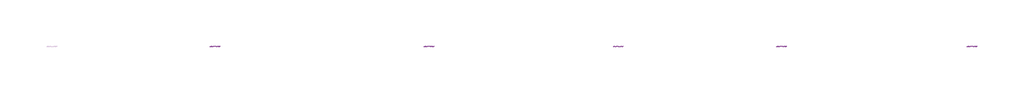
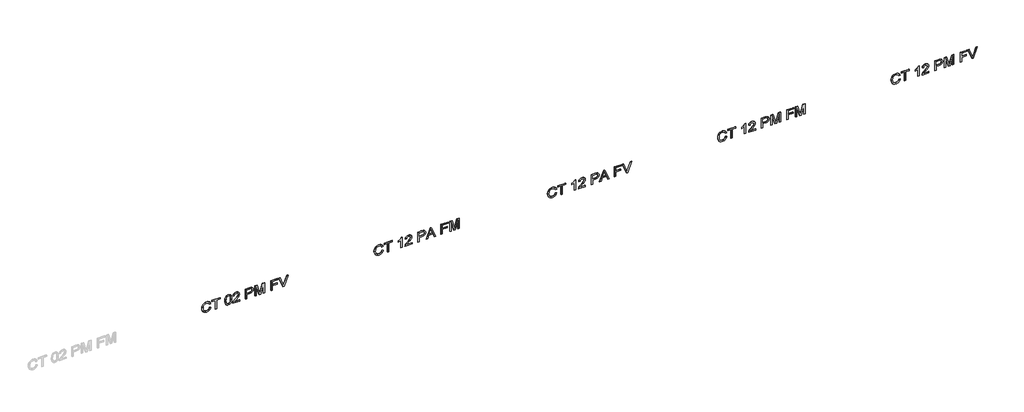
# One storey, part 2 of 2: 5 proxies.
"""IFC4 building model written with IfcOpenShell, lengths in millimetres."""

from ifc_helpers import new_model, si_unit, frame, origin, place, context, project, spatial, polyline, outline, extrude, element, save

model = new_model("IFC4")

# Units and contexts
model_context = context("Model", 3, world=origin())
ifc_project = project(units=[si_unit("LENGTHUNIT", "METRE", prefix="MILLI")], contexts=[model_context])

# Site, building, storey
site = spatial("IfcSite", under=ifc_project)
building = spatial("IfcBuilding", under=site)
storey = spatial("IfcBuildingStorey", under=building, Name="02 - Marelli - Planta Baixa - Cabine 02 Pessoas", Elevation=-12000.0)

# Proxies
placement = place(None, origin())
element("IfcBuildingElementProxy", 1, Name="300mm Arial", ObjectType="300mm Arial", at=placement, inside=storey, context=model_context, shape_type="SweptSolid", body=[
    extrude(outline(polyline([(-6192.872763, 12857.8980347), (-6225.136014, 12845.7119436), (-6248.3493679, 12825.9290893), (-6262.3656719, 12799.7266942), (-6267.0377732, 12768.2819806), (-6263.6072736, 12741.3070333), (-6253.3157748, 12716.3002547), (-6236.0897004, 12695.4413456), (-6211.855474, 12680.9100068), (-6181.7627268, 12672.3843415), (-6146.96109, 12669.5424531), (-6118.5422059, 12671.9428831), (-6090.9694503, 12679.1441732), (-6066.5788741, 12692.2683634), (-6047.7065277, 12712.4374938), (-6035.6216042, 12739.0169679), (-6031.5932963, 12771.3721894), (-6035.226131, 12799.4415856), (-6046.1246351, 12822.2870575), (-6064.9693903, 12840.1293343), (-6092.4409783, 12853.1891451), (-6083.4646576, 12890.8602614), (-6045.6463885, 12874.2227982), (-6030.3241034, 12862.4206839), (-6017.3930513, 12848.2963146), (-6007.1245451, 12832.1164046), (-5999.7898978, 12814.1476684), (-5993.92218, 12772.8437174), (-5998.4563256, 12734.9886601), (-6012.0587624, 12700.4445407), (-6034.3983965, 12671.3174838), (-6065.1441343, 12649.7136136), (-6103.0911621, 12636.331906), (-6147.0346664, 12631.8713368), (-6188.6973024, 12635.8168712), (-6227.6008233, 12647.6534744), (-6260.6918088, 12667.0408556), (-6284.9168382, 12693.6387238), (-6299.7608767, 12728.339193), (-6304.7088895, 12772.034377), (-6303.0741139, 12794.4567846), (-6298.1697871, 12815.0765704), (-6289.995909, 12833.8937345), (-6278.5524797, 12850.9082767), (-6263.995849, 12865.7845049), (-6246.4823668, 12878.1867267), (-6226.012033, 12888.114942), (-6202.5848477, 12895.569151), (-6192.872763, 12857.8980347)])), frame((0.0, 8778.3159498, 0.0), z_axis=(0.0, 1.0, 0.0), x_axis=(0.0, 0.0, 1.0)), (0.0, 0.0, 1.0), 10.0),
    extrude(outline(polyline([(-6300.0, 13022.7091685), (-6300.0, 13060.3802848), (-6036.3021859, 13060.3802848), (-6036.3021859, 13159.2669651), (-5998.6310696, 13159.2669651), (-5998.6310696, 12923.8224882), (-6036.3021859, 12923.8224882), (-6036.3021859, 13022.7091685), (-6300.0, 13022.7091685)])), frame((0.0, 8778.3159498, 0.0), z_axis=(0.0, 1.0, 0.0), x_axis=(0.0, 0.0, 1.0)), (0.0, 0.0, 1.0), 10.0),
    extrude(outline(polyline([(-6151.7435559, 13305.2425408), (-6191.1851044, 13307.118739), (-6225.0440435, 13312.7473335), (-6253.3203733, 13322.1283244), (-6276.0140939, 13335.2617116), (-6288.568067, 13348.9469218), (-6297.5351906, 13364.9865768), (-6302.9154648, 13383.3806766), (-6304.7088895, 13404.1292211), (-6300.5794141, 13434.5806532), (-6288.190988, 13459.2747322), (-6267.4056552, 13478.3770048), (-6238.0854602, 13492.0530179), (-6199.7061711, 13500.2751805), (-6151.7435559, 13503.0159014), (-6111.7823742, 13501.3052501), (-6080.9262719, 13496.1732963), (-6056.6276661, 13488.3374098), (-6036.3389741, 13478.5149605), (-6020.1981515, 13465.510332), (-6008.3431542, 13448.1279077), (-6001.0590907, 13427.342575), (-5998.6310696, 13404.1292211), (-6002.7329538, 13373.8433358), (-6015.0386065, 13349.2044392), (-6035.7411658, 13330.0745755), (-6065.0337697, 13316.3157888), (-6103.5050293, 13308.0108528), (-6151.7435559, 13305.2425408)]), holes=[polyline([(-6151.6699795, 13342.9136571), (-6093.1767423, 13347.4753938), (-6072.097104, 13353.1775648), (-6056.4621192, 13361.1606041), (-6041.3421692, 13380.1065268), (-6036.3021859, 13403.6877627), (-6042.0227509, 13428.5933738), (-6059.184446, 13448.2750605), (-6073.5456393, 13455.743065), (-6093.7469594, 13461.0773539), (-6151.6699795, 13465.3447851), (-6210.8346014, 13460.9302012), (-6231.0980016, 13455.4119712), (-6245.1487945, 13447.6864493), (-6261.5655286, 13427.9679744), (-6267.0377732, 13404.1292211), (-6261.5839227, 13380.2904678), (-6245.2223709, 13360.5719929), (-6231.1945706, 13352.846471), (-6210.9265719, 13347.328241), (-6151.6699795, 13342.9136571)])]), frame((0.0, 8778.3159498, 0.0), z_axis=(0.0, 1.0, 0.0), x_axis=(0.0, 0.0, 1.0)), (0.0, 0.0, 1.0), 10.0),
    extrude(outline(polyline([(-6262.3288837, 13729.0425992), (-6262.3288837, 13581.0804608), (-6243.1622317, 13598.076609), (-6206.9258552, 13641.413108), (-6177.9091629, 13674.1086203), (-6155.3120113, 13695.3813967), (-6136.3844826, 13708.7263161), (-6118.376659, 13717.6382574), (-6100.672338, 13722.6598466), (-6082.6553172, 13724.3337097), (-6065.5028192, 13722.7817075), (-6049.8034551, 13718.125701), (-6035.5572248, 13710.3656902), (-6022.7641284, 13699.501675), (-6012.2059152, 13685.9751139), (-6004.6643343, 13670.2274653), (-6000.1393857, 13652.2587291), (-5998.6310696, 13632.0689053), (-6004.057329, 13594.1862569), (-6010.8401533, 13578.4524038), (-6020.3361073, 13564.8568648), (-6032.4164323, 13553.6571573), (-6046.9523696, 13545.1107987), (-6083.3910812, 13535.9781282), (-6088.0999708, 13573.6492445), (-6066.4501154, 13577.7235376), (-6050.0609725, 13589.5049585), (-6039.7418825, 13607.7611025), (-6036.3021859, 13631.2595649), (-6039.824656, 13653.6359873), (-6050.3920663, 13671.3219142), (-6066.0730363, 13682.8274236), (-6084.9361856, 13686.6625934), (-6105.9790357, 13682.5974973), (-6127.6104971, 13670.4022092), (-6154.2635476, 13646.0116329), (-6190.3711654, 13605.3606725), (-6213.4281695, 13577.8614933), (-6234.0387583, 13558.1982007), (-6253.7296421, 13544.604961), (-6274.0275311, 13535.3159406), (-6300.0, 13531.2692386), (-6300.0, 13729.0425992), (-6262.3288837, 13729.0425992)])), frame((0.0, 8778.3159498, 0.0), z_axis=(0.0, 1.0, 0.0), x_axis=(0.0, 0.0, 1.0)), (0.0, 0.0, 1.0), 10.0),
    extrude(outline(polyline([(-6300.0, 13898.5626226), (-6300.0, 13936.2337389), (-6177.568872, 13936.2337389), (-6177.568872, 14012.8267703), (-6175.904206, 14042.0251044), (-6170.9102079, 14066.3444036), (-6162.5868778, 14085.7846677), (-6150.9342156, 14100.345897), (-6136.8765248, 14110.9523947), (-6121.338109, 14118.5284646), (-6104.3189682, 14123.0741065), (-6085.8191024, 14124.5893204), (-6064.362385, 14122.3452403), (-6044.7266835, 14115.6129998), (-6028.0800233, 14105.1927423), (-6015.5904295, 14091.8846111), (-6006.8624292, 14075.3575124), (-6001.5005491, 14055.2803526), (-5998.6310696, 14010.2515963), (-5998.6310696, 13898.5626226), (-6300.0, 13898.5626226)]), holes=[polyline([(-6139.8977557, 13936.2337389), (-6036.3021859, 13936.2337389), (-6036.3021859, 14014.1511455), (-6038.8773598, 14051.8222618), (-6045.2049301, 14066.050098), (-6055.9470844, 14077.2429077), (-6070.2209058, 14084.49938), (-6087.1434776, 14086.9182041), (-6109.4187324, 14082.8163199), (-6126.0653927, 14070.5106672), (-6136.4396649, 14048.4377474), (-6139.8977557, 14015.0340623), (-6139.8977557, 13936.2337389)])]), frame((0.0, 8778.3159498, 0.0), z_axis=(0.0, 1.0, 0.0), x_axis=(0.0, 0.0, 1.0)), (0.0, 0.0, 1.0), 10.0),
    extrude(outline(polyline([(-6300.0, 14176.3871054), (-6300.0, 14214.0582217), (-6036.3021859, 14214.0582217), (-6300.0, 14289.7683363), (-6300.0, 14340.8303572), (-6036.3021859, 14416.5404718), (-6300.0, 14416.5404718), (-6300.0, 14454.2115881), (-5998.6310696, 14454.2115881), (-5998.6310696, 14389.3907806), (-6207.3673136, 14328.7638278), (-6255.4127022, 14315.2993467), (-6211.0461336, 14302.8649353), (-5998.6310696, 14241.2079129), (-5998.6310696, 14176.3871054), (-6300.0, 14176.3871054)])), frame((0.0, 8778.3159498, 0.0), z_axis=(0.0, 1.0, 0.0), x_axis=(0.0, 0.0, 1.0)), (0.0, 0.0, 1.0), 10.0),
    extrude(outline(polyline([(-6300.0, 14637.8582801), (-6300.0, 14675.5293964), (-6163.4422034, 14675.5293964), (-6163.4422034, 14816.7960826), (-6125.7710871, 14816.7960826), (-6125.7710871, 14675.5293964), (-6036.3021859, 14675.5293964), (-6036.3021859, 14840.3405303), (-5998.6310696, 14840.3405303), (-5998.6310696, 14637.8582801), (-6300.0, 14637.8582801)])), frame((0.0, 8778.3159498, 0.0), z_axis=(0.0, 1.0, 0.0), x_axis=(0.0, 0.0, 1.0)), (0.0, 0.0, 1.0), 10.0),
    extrude(outline(polyline([(-6300.0, 14981.165758), (-6300.0, 15020.0876731), (-5998.6310696, 15134.940432), (-5998.6310696, 15094.6205653), (-6215.7550231, 15014.1279848), (-6264.6833285, 14998.0883298), (-6215.7550231, 14981.8279456), (-5998.6310696, 14901.5560943), (-5998.6310696, 14861.2362276), (-6300.0, 14981.165758)])), frame((0.0, 8778.3159498, 0.0), z_axis=(0.0, 1.0, 0.0), x_axis=(0.0, 0.0, 1.0)), (0.0, 0.0, 1.0), 10.0),
])
element("IfcBuildingElementProxy", 2, Name="300mm Arial", ObjectType="300mm Arial", at=placement, inside=storey, context=model_context, shape_type="SweptSolid", body=[
    extrude(outline(polyline([(-6192.872763, 17857.8980347), (-6225.136014, 17845.7119436), (-6248.3493679, 17825.9290893), (-6262.3656719, 17799.7266942), (-6267.0377732, 17768.2819806), (-6263.6072736, 17741.3070333), (-6253.3157748, 17716.3002547), (-6236.0897004, 17695.4413456), (-6211.855474, 17680.9100068), (-6181.7627268, 17672.3843415), (-6146.96109, 17669.5424531), (-6118.5422059, 17671.9428831), (-6090.9694503, 17679.1441732), (-6066.5788741, 17692.2683634), (-6047.7065277, 17712.4374938), (-6035.6216042, 17739.0169679), (-6031.5932963, 17771.3721894), (-6035.226131, 17799.4415856), (-6046.1246351, 17822.2870575), (-6064.9693903, 17840.1293343), (-6092.4409783, 17853.1891451), (-6083.4646576, 17890.8602614), (-6045.6463885, 17874.2227982), (-6030.3241034, 17862.4206839), (-6017.3930513, 17848.2963146), (-6007.1245451, 17832.1164046), (-5999.7898978, 17814.1476684), (-5993.92218, 17772.8437174), (-5998.4563256, 17734.9886601), (-6012.0587624, 17700.4445407), (-6034.3983965, 17671.3174838), (-6065.1441343, 17649.7136136), (-6103.0911621, 17636.331906), (-6147.0346664, 17631.8713368), (-6188.6973024, 17635.8168712), (-6227.6008233, 17647.6534744), (-6260.6918088, 17667.0408556), (-6284.9168382, 17693.6387238), (-6299.7608767, 17728.339193), (-6304.7088895, 17772.034377), (-6303.0741139, 17794.4567846), (-6298.1697871, 17815.0765704), (-6289.995909, 17833.8937345), (-6278.5524797, 17850.9082767), (-6263.995849, 17865.7845049), (-6246.4823668, 17878.1867267), (-6226.012033, 17888.114942), (-6202.5848477, 17895.569151), (-6192.872763, 17857.8980347)])), frame((0.0, 8778.3159498, 0.0), z_axis=(0.0, 1.0, 0.0), x_axis=(0.0, 0.0, 1.0)), (0.0, 0.0, 1.0), 10.0),
    extrude(outline(polyline([(-6300.0, 18022.7091685), (-6300.0, 18060.3802848), (-6036.3021859, 18060.3802848), (-6036.3021859, 18159.2669651), (-5998.6310696, 18159.2669651), (-5998.6310696, 17923.8224882), (-6036.3021859, 17923.8224882), (-6036.3021859, 18022.7091685), (-6300.0, 18022.7091685)])), frame((0.0, 8778.3159498, 0.0), z_axis=(0.0, 1.0, 0.0), x_axis=(0.0, 0.0, 1.0)), (0.0, 0.0, 1.0), 10.0),
    extrude(outline(polyline([(-6300.0, 18446.5092269), (-5998.6310696, 18446.5092269), (-5998.6310696, 18422.2290153), (-6018.3679386, 18408.9208841), (-6038.730207, 18388.7149655), (-6057.8784649, 18363.0827875), (-6073.9733022, 18333.495878), (-6109.5842793, 18333.495878), (-6090.5647801, 18373.1535571), (-6065.1441343, 18408.8381106), (-6300.0, 18408.8381106), (-6300.0, 18446.5092269)])), frame((0.0, 8778.3159498, 0.0), z_axis=(0.0, 1.0, 0.0), x_axis=(0.0, 0.0, 1.0)), (0.0, 0.0, 1.0), 10.0),
    extrude(outline(polyline([(-6262.3288837, 18729.0425992), (-6262.3288837, 18581.0804608), (-6243.1622317, 18598.076609), (-6206.9258552, 18641.413108), (-6177.9091629, 18674.1086203), (-6155.3120113, 18695.3813967), (-6136.3844826, 18708.7263161), (-6118.376659, 18717.6382574), (-6100.672338, 18722.6598466), (-6082.6553172, 18724.3337097), (-6065.5028192, 18722.7817075), (-6049.8034551, 18718.125701), (-6035.5572248, 18710.3656902), (-6022.7641284, 18699.501675), (-6012.2059152, 18685.9751139), (-6004.6643343, 18670.2274653), (-6000.1393857, 18652.2587291), (-5998.6310696, 18632.0689053), (-6004.057329, 18594.1862569), (-6010.8401533, 18578.4524038), (-6020.3361073, 18564.8568648), (-6032.4164323, 18553.6571573), (-6046.9523696, 18545.1107987), (-6083.3910812, 18535.9781282), (-6088.0999708, 18573.6492445), (-6066.4501154, 18577.7235376), (-6050.0609725, 18589.5049585), (-6039.7418825, 18607.7611025), (-6036.3021859, 18631.2595649), (-6039.824656, 18653.6359873), (-6050.3920663, 18671.3219142), (-6066.0730363, 18682.8274236), (-6084.9361856, 18686.6625934), (-6105.9790357, 18682.5974973), (-6127.6104971, 18670.4022092), (-6154.2635476, 18646.0116329), (-6190.3711654, 18605.3606725), (-6213.4281695, 18577.8614933), (-6234.0387583, 18558.1982007), (-6253.7296421, 18544.604961), (-6274.0275311, 18535.3159406), (-6300.0, 18531.2692386), (-6300.0, 18729.0425992), (-6262.3288837, 18729.0425992)])), frame((0.0, 8778.3159498, 0.0), z_axis=(0.0, 1.0, 0.0), x_axis=(0.0, 0.0, 1.0)), (0.0, 0.0, 1.0), 10.0),
    extrude(outline(polyline([(-6300.0, 18898.5626226), (-6300.0, 18936.2337389), (-6177.568872, 18936.2337389), (-6177.568872, 19012.8267703), (-6175.904206, 19042.0251044), (-6170.9102079, 19066.3444036), (-6162.5868778, 19085.7846677), (-6150.9342156, 19100.345897), (-6136.8765248, 19110.9523947), (-6121.338109, 19118.5284646), (-6104.3189682, 19123.0741065), (-6085.8191024, 19124.5893204), (-6064.362385, 19122.3452403), (-6044.7266835, 19115.6129998), (-6028.0800233, 19105.1927423), (-6015.5904295, 19091.8846111), (-6006.8624292, 19075.3575124), (-6001.5005491, 19055.2803526), (-5998.6310696, 19010.2515963), (-5998.6310696, 18898.5626226), (-6300.0, 18898.5626226)]), holes=[polyline([(-6139.8977557, 18936.2337389), (-6036.3021859, 18936.2337389), (-6036.3021859, 19014.1511455), (-6038.8773598, 19051.8222618), (-6045.2049301, 19066.050098), (-6055.9470844, 19077.2429077), (-6070.2209058, 19084.49938), (-6087.1434776, 19086.9182041), (-6109.4187324, 19082.8163199), (-6126.0653927, 19070.5106672), (-6136.4396649, 19048.4377474), (-6139.8977557, 19015.0340623), (-6139.8977557, 18936.2337389)])]), frame((0.0, 8778.3159498, 0.0), z_axis=(0.0, 1.0, 0.0), x_axis=(0.0, 0.0, 1.0)), (0.0, 0.0, 1.0), 10.0),
    extrude(outline(polyline([(-6300.0, 19141.291163), (-6300.0, 19181.0959949), (-6205.8222092, 19215.5297497), (-6205.8222092, 19339.6531348), (-6300.0, 19374.160466), (-6300.0, 19413.9652979), (-5998.6310696, 19293.6678854), (-5998.6310696, 19261.5885755), (-6300.0, 19141.291163)]), holes=[polyline([(-6168.1510929, 19229.3621127), (-6087.584936, 19258.8662487), (-6036.3021859, 19277.6282304), (-6094.0596591, 19298.744657), (-6168.1510929, 19325.8943482), (-6168.1510929, 19229.3621127)])]), frame((0.0, 8778.3159498, 0.0), z_axis=(0.0, 1.0, 0.0), x_axis=(0.0, 0.0, 1.0)), (0.0, 0.0, 1.0), 10.0),
    extrude(outline(polyline([(-6300.0, 19571.9338266), (-6300.0, 19609.6049429), (-6163.4422034, 19609.6049429), (-6163.4422034, 19750.871629), (-6125.7710871, 19750.871629), (-6125.7710871, 19609.6049429), (-6036.3021859, 19609.6049429), (-6036.3021859, 19774.4160767), (-5998.6310696, 19774.4160767), (-5998.6310696, 19571.9338266), (-6300.0, 19571.9338266)])), frame((0.0, 8778.3159498, 0.0), z_axis=(0.0, 1.0, 0.0), x_axis=(0.0, 0.0, 1.0)), (0.0, 0.0, 1.0), 10.0),
    extrude(outline(polyline([(-6300.0, 19826.2138617), (-6300.0, 19863.884978), (-6036.3021859, 19863.884978), (-6300.0, 19939.5950926), (-6300.0, 19990.6571135), (-6036.3021859, 20066.3672281), (-6300.0, 20066.3672281), (-6300.0, 20104.0383444), (-5998.6310696, 20104.0383444), (-5998.6310696, 20039.2175369), (-6207.3673136, 19978.5905841), (-6255.4127022, 19965.126103), (-6211.0461336, 19952.6916916), (-5998.6310696, 19891.0346692), (-5998.6310696, 19826.2138617), (-6300.0, 19826.2138617)])), frame((0.0, 8778.3159498, 0.0), z_axis=(0.0, 1.0, 0.0), x_axis=(0.0, 0.0, 1.0)), (0.0, 0.0, 1.0), 10.0),
])
element("IfcBuildingElementProxy", 3, Name="300mm Arial", ObjectType="300mm Arial", at=placement, inside=storey, context=model_context, shape_type="SweptSolid", body=[
    extrude(outline(polyline([(-6192.872763, 22890.8602614), (-6225.136014, 22878.6741703), (-6248.3493679, 22858.891316), (-6262.3656719, 22832.6889209), (-6267.0377732, 22801.2442074), (-6263.6072736, 22774.2692601), (-6253.3157748, 22749.2624815), (-6236.0897004, 22728.4035724), (-6211.855474, 22713.8722335), (-6181.7627268, 22705.3465683), (-6146.96109, 22702.5046799), (-6118.5422059, 22704.9051099), (-6090.9694503, 22712.1064), (-6066.5788741, 22725.2305901), (-6047.7065277, 22745.3997205), (-6035.6216042, 22771.9791947), (-6031.5932963, 22804.3344162), (-6035.226131, 22832.4038124), (-6046.1246351, 22855.2492843), (-6064.9693903, 22873.0915611), (-6092.4409783, 22886.1513719), (-6083.4646576, 22923.8224882), (-6045.6463885, 22907.185025), (-6030.3241034, 22895.3829107), (-6017.3930513, 22881.2585414), (-6007.1245451, 22865.0786314), (-5999.7898978, 22847.1098951), (-5993.92218, 22805.8059441), (-5998.4563256, 22767.9508868), (-6012.0587624, 22733.4067675), (-6034.3983965, 22704.2797105), (-6065.1441343, 22682.6758404), (-6103.0911621, 22669.2941328), (-6147.0346664, 22664.8335636), (-6188.6973024, 22668.779098), (-6227.6008233, 22680.6157012), (-6260.6918088, 22700.0030823), (-6284.9168382, 22726.6009506), (-6299.7608767, 22761.3014198), (-6304.7088895, 22804.9966038), (-6303.0741139, 22827.4190114), (-6298.1697871, 22848.0387972), (-6289.995909, 22866.8559612), (-6278.5524797, 22883.8705035), (-6263.995849, 22898.7467317), (-6246.4823668, 22911.1489535), (-6226.012033, 22921.0771688), (-6202.5848477, 22928.5313777), (-6192.872763, 22890.8602614)])), frame((0.0, 8778.3159498, 0.0), z_axis=(0.0, 1.0, 0.0), x_axis=(0.0, 0.0, 1.0)), (0.0, 0.0, 1.0), 10.0),
    extrude(outline(polyline([(-6300.0, 23055.6713953), (-6300.0, 23093.3425116), (-6036.3021859, 23093.3425116), (-6036.3021859, 23192.2291919), (-5998.6310696, 23192.2291919), (-5998.6310696, 22956.784715), (-6036.3021859, 22956.784715), (-6036.3021859, 23055.6713953), (-6300.0, 23055.6713953)])), frame((0.0, 8778.3159498, 0.0), z_axis=(0.0, 1.0, 0.0), x_axis=(0.0, 0.0, 1.0)), (0.0, 0.0, 1.0), 10.0),
    extrude(outline(polyline([(-6300.0, 23479.4714537), (-5998.6310696, 23479.4714537), (-5998.6310696, 23455.191242), (-6018.3679386, 23441.8831109), (-6038.730207, 23421.6771923), (-6057.8784649, 23396.0450143), (-6073.9733022, 23366.4581048), (-6109.5842793, 23366.4581048), (-6090.5647801, 23406.1157839), (-6065.1441343, 23441.8003374), (-6300.0, 23441.8003374), (-6300.0, 23479.4714537)])), frame((0.0, 8778.3159498, 0.0), z_axis=(0.0, 1.0, 0.0), x_axis=(0.0, 0.0, 1.0)), (0.0, 0.0, 1.0), 10.0),
    extrude(outline(polyline([(-6262.3288837, 23762.004826), (-6262.3288837, 23614.0426875), (-6243.1622317, 23631.0388357), (-6206.9258552, 23674.3753348), (-6177.9091629, 23707.0708471), (-6155.3120113, 23728.3436234), (-6136.3844826, 23741.6885428), (-6118.376659, 23750.6004842), (-6100.672338, 23755.6220734), (-6082.6553172, 23757.2959365), (-6065.5028192, 23755.7439343), (-6049.8034551, 23751.0879278), (-6035.5572248, 23743.327917), (-6022.7641284, 23732.4639018), (-6012.2059152, 23718.9373407), (-6004.6643343, 23703.189692), (-6000.1393857, 23685.2209558), (-5998.6310696, 23665.0311321), (-6004.057329, 23627.1484836), (-6010.8401533, 23611.4146305), (-6020.3361073, 23597.8190916), (-6032.4164323, 23586.6193841), (-6046.9523696, 23578.0730255), (-6083.3910812, 23568.9403549), (-6088.0999708, 23606.6114712), (-6066.4501154, 23610.6857643), (-6050.0609725, 23622.4671852), (-6039.7418825, 23640.7233292), (-6036.3021859, 23664.2217917), (-6039.824656, 23686.598214), (-6050.3920663, 23704.284141), (-6066.0730363, 23715.7896504), (-6084.9361856, 23719.6248202), (-6105.9790357, 23715.5597241), (-6127.6104971, 23703.364436), (-6154.2635476, 23678.9738597), (-6190.3711654, 23638.3228992), (-6213.4281695, 23610.8237201), (-6234.0387583, 23591.1604274), (-6253.7296421, 23577.5671877), (-6274.0275311, 23568.2781673), (-6300.0, 23564.2314654), (-6300.0, 23762.004826), (-6262.3288837, 23762.004826)])), frame((0.0, 8778.3159498, 0.0), z_axis=(0.0, 1.0, 0.0), x_axis=(0.0, 0.0, 1.0)), (0.0, 0.0, 1.0), 10.0),
    extrude(outline(polyline([(-6300.0, 23931.5248494), (-6300.0, 23969.1959657), (-6177.568872, 23969.1959657), (-6177.568872, 24045.7889971), (-6175.904206, 24074.9873312), (-6170.9102079, 24099.3066303), (-6162.5868778, 24118.7468945), (-6150.9342156, 24133.3081237), (-6136.8765248, 24143.9146215), (-6121.338109, 24151.4906913), (-6104.3189682, 24156.0363333), (-6085.8191024, 24157.5515472), (-6064.362385, 24155.307467), (-6044.7266835, 24148.5752265), (-6028.0800233, 24138.154969), (-6015.5904295, 24124.8468378), (-6006.8624292, 24108.3197392), (-6001.5005491, 24088.2425793), (-5998.6310696, 24043.2138231), (-5998.6310696, 23931.5248494), (-6300.0, 23931.5248494)]), holes=[polyline([(-6139.8977557, 23969.1959657), (-6036.3021859, 23969.1959657), (-6036.3021859, 24047.1133723), (-6038.8773598, 24084.7844886), (-6045.2049301, 24099.0123247), (-6055.9470844, 24110.2051344), (-6070.2209058, 24117.4616068), (-6087.1434776, 24119.8804309), (-6109.4187324, 24115.7785467), (-6126.0653927, 24103.4728939), (-6136.4396649, 24081.3999742), (-6139.8977557, 24047.9962891), (-6139.8977557, 23969.1959657)])]), frame((0.0, 8778.3159498, 0.0), z_axis=(0.0, 1.0, 0.0), x_axis=(0.0, 0.0, 1.0)), (0.0, 0.0, 1.0), 10.0),
    extrude(outline(polyline([(-6300.0, 24174.2533898), (-6300.0, 24214.0582217), (-6205.8222092, 24248.4919764), (-6205.8222092, 24372.6153616), (-6300.0, 24407.1226927), (-6300.0, 24446.9275246), (-5998.6310696, 24326.6301122), (-5998.6310696, 24294.5508022), (-6300.0, 24174.2533898)]), holes=[polyline([(-6168.1510929, 24262.3243394), (-6087.584936, 24291.8284755), (-6036.3021859, 24310.5904572), (-6094.0596591, 24331.7068837), (-6168.1510929, 24358.856575), (-6168.1510929, 24262.3243394)])]), frame((0.0, 8778.3159498, 0.0), z_axis=(0.0, 1.0, 0.0), x_axis=(0.0, 0.0, 1.0)), (0.0, 0.0, 1.0), 10.0),
    extrude(outline(polyline([(-6300.0, 24604.8960534), (-6300.0, 24642.5671697), (-6163.4422034, 24642.5671697), (-6163.4422034, 24783.8338558), (-6125.7710871, 24783.8338558), (-6125.7710871, 24642.5671697), (-6036.3021859, 24642.5671697), (-6036.3021859, 24807.3783035), (-5998.6310696, 24807.3783035), (-5998.6310696, 24604.8960534), (-6300.0, 24604.8960534)])), frame((0.0, 8778.3159498, 0.0), z_axis=(0.0, 1.0, 0.0), x_axis=(0.0, 0.0, 1.0)), (0.0, 0.0, 1.0), 10.0),
    extrude(outline(polyline([(-6300.0, 24948.2035313), (-6300.0, 24987.1254463), (-5998.6310696, 25101.9782052), (-5998.6310696, 25061.6583386), (-6215.7550231, 24981.165758), (-6264.6833285, 24965.126103), (-6215.7550231, 24948.8657188), (-5998.6310696, 24868.5938675), (-5998.6310696, 24828.2740008), (-6300.0, 24948.2035313)])), frame((0.0, 8778.3159498, 0.0), z_axis=(0.0, 1.0, 0.0), x_axis=(0.0, 0.0, 1.0)), (0.0, 0.0, 1.0), 10.0),
])
element("IfcBuildingElementProxy", 4, Name="300mm Arial", ObjectType="300mm Arial", at=placement, inside=storey, context=model_context, shape_type="SweptSolid", body=[
    extrude(outline(polyline([(-6192.872763, 27824.9358079), (-6225.136014, 27812.7497168), (-6248.3493679, 27792.9668625), (-6262.3656719, 27766.7644674), (-6267.0377732, 27735.3197539), (-6263.6072736, 27708.3448066), (-6253.3157748, 27683.3380279), (-6236.0897004, 27662.4791188), (-6211.855474, 27647.94778), (-6181.7627268, 27639.4221148), (-6146.96109, 27636.5802264), (-6118.5422059, 27638.9806564), (-6090.9694503, 27646.1819464), (-6066.5788741, 27659.3061366), (-6047.7065277, 27679.475267), (-6035.6216042, 27706.0547411), (-6031.5932963, 27738.4099626), (-6035.226131, 27766.4793589), (-6046.1246351, 27789.3248308), (-6064.9693903, 27807.1671075), (-6092.4409783, 27820.2269184), (-6083.4646576, 27857.8980347), (-6045.6463885, 27841.2605714), (-6030.3241034, 27829.4584572), (-6017.3930513, 27815.3340878), (-6007.1245451, 27799.1541778), (-5999.7898978, 27781.1854416), (-5993.92218, 27739.8814906), (-5998.4563256, 27702.0264333), (-6012.0587624, 27667.482314), (-6034.3983965, 27638.355257), (-6065.1441343, 27616.7513868), (-6103.0911621, 27603.3696792), (-6147.0346664, 27598.9091101), (-6188.6973024, 27602.8546445), (-6227.6008233, 27614.6912476), (-6260.6918088, 27634.0786288), (-6284.9168382, 27660.676497), (-6299.7608767, 27695.3769662), (-6304.7088895, 27739.0721502), (-6303.0741139, 27761.4945578), (-6298.1697871, 27782.1143437), (-6289.995909, 27800.9315077), (-6278.5524797, 27817.94605), (-6263.995849, 27832.8222782), (-6246.4823668, 27845.2244999), (-6226.012033, 27855.1527153), (-6202.5848477, 27862.6069242), (-6192.872763, 27824.9358079)])), frame((0.0, 8778.3159498, 0.0), z_axis=(0.0, 1.0, 0.0), x_axis=(0.0, 0.0, 1.0)), (0.0, 0.0, 1.0), 10.0),
    extrude(outline(polyline([(-6300.0, 27989.7469417), (-6300.0, 28027.418058), (-6036.3021859, 28027.418058), (-6036.3021859, 28126.3047383), (-5998.6310696, 28126.3047383), (-5998.6310696, 27890.8602614), (-6036.3021859, 27890.8602614), (-6036.3021859, 27989.7469417), (-6300.0, 27989.7469417)])), frame((0.0, 8778.3159498, 0.0), z_axis=(0.0, 1.0, 0.0), x_axis=(0.0, 0.0, 1.0)), (0.0, 0.0, 1.0), 10.0),
    extrude(outline(polyline([(-6300.0, 28413.5470002), (-5998.6310696, 28413.5470002), (-5998.6310696, 28389.2667885), (-6018.3679386, 28375.9586573), (-6038.730207, 28355.7527387), (-6057.8784649, 28330.1205607), (-6073.9733022, 28300.5336513), (-6109.5842793, 28300.5336513), (-6090.5647801, 28340.1913303), (-6065.1441343, 28375.8758839), (-6300.0, 28375.8758839), (-6300.0, 28413.5470002)])), frame((0.0, 8778.3159498, 0.0), z_axis=(0.0, 1.0, 0.0), x_axis=(0.0, 0.0, 1.0)), (0.0, 0.0, 1.0), 10.0),
    extrude(outline(polyline([(-6262.3288837, 28696.0803725), (-6262.3288837, 28548.118234), (-6243.1622317, 28565.1143822), (-6206.9258552, 28608.4508812), (-6177.9091629, 28641.1463935), (-6155.3120113, 28662.4191699), (-6136.3844826, 28675.7640893), (-6118.376659, 28684.6760306), (-6100.672338, 28689.6976199), (-6082.6553172, 28691.3714829), (-6065.5028192, 28689.8194808), (-6049.8034551, 28685.1634743), (-6035.5572248, 28677.4034634), (-6022.7641284, 28666.5394483), (-6012.2059152, 28653.0128871), (-6004.6643343, 28637.2652385), (-6000.1393857, 28619.2965023), (-5998.6310696, 28599.1066785), (-6004.057329, 28561.2240301), (-6010.8401533, 28545.490177), (-6020.3361073, 28531.894638), (-6032.4164323, 28520.6949305), (-6046.9523696, 28512.1485719), (-6083.3910812, 28503.0159014), (-6088.0999708, 28540.6870177), (-6066.4501154, 28544.7613108), (-6050.0609725, 28556.5427317), (-6039.7418825, 28574.7988757), (-6036.3021859, 28598.2973382), (-6039.824656, 28620.6737605), (-6050.3920663, 28638.3596874), (-6066.0730363, 28649.8651968), (-6084.9361856, 28653.7003666), (-6105.9790357, 28649.6352706), (-6127.6104971, 28637.4399824), (-6154.2635476, 28613.0494062), (-6190.3711654, 28572.3984457), (-6213.4281695, 28544.8992666), (-6234.0387583, 28525.2359739), (-6253.7296421, 28511.6427342), (-6274.0275311, 28502.3537138), (-6300.0, 28498.3070119), (-6300.0, 28696.0803725), (-6262.3288837, 28696.0803725)])), frame((0.0, 8778.3159498, 0.0), z_axis=(0.0, 1.0, 0.0), x_axis=(0.0, 0.0, 1.0)), (0.0, 0.0, 1.0), 10.0),
    extrude(outline(polyline([(-6300.0, 28865.6003958), (-6300.0, 28903.2715122), (-6177.568872, 28903.2715122), (-6177.568872, 28979.8645435), (-6175.904206, 29009.0628777), (-6170.9102079, 29033.3821768), (-6162.5868778, 29052.822441), (-6150.9342156, 29067.3836702), (-6136.8765248, 29077.990168), (-6121.338109, 29085.5662378), (-6104.3189682, 29090.1118797), (-6085.8191024, 29091.6270937), (-6064.362385, 29089.3830135), (-6044.7266835, 29082.650773), (-6028.0800233, 29072.2305155), (-6015.5904295, 29058.9223843), (-6006.8624292, 29042.3952857), (-6001.5005491, 29022.3181258), (-5998.6310696, 28977.2893696), (-5998.6310696, 28865.6003958), (-6300.0, 28865.6003958)]), holes=[polyline([(-6139.8977557, 28903.2715122), (-6036.3021859, 28903.2715122), (-6036.3021859, 28981.1889187), (-6038.8773598, 29018.860035), (-6045.2049301, 29033.0878712), (-6055.9470844, 29044.2806809), (-6070.2209058, 29051.5371533), (-6087.1434776, 29053.9559774), (-6109.4187324, 29049.8540931), (-6126.0653927, 29037.5484404), (-6136.4396649, 29015.4755207), (-6139.8977557, 28982.0718355), (-6139.8977557, 28903.2715122)])]), frame((0.0, 8778.3159498, 0.0), z_axis=(0.0, 1.0, 0.0), x_axis=(0.0, 0.0, 1.0)), (0.0, 0.0, 1.0), 10.0),
    extrude(outline(polyline([(-6300.0, 29143.4248786), (-6300.0, 29181.0959949), (-6036.3021859, 29181.0959949), (-6300.0, 29256.8061095), (-6300.0, 29307.8681304), (-6036.3021859, 29383.5782451), (-6300.0, 29383.5782451), (-6300.0, 29421.2493614), (-5998.6310696, 29421.2493614), (-5998.6310696, 29356.4285538), (-6207.3673136, 29295.801601), (-6255.4127022, 29282.33712), (-6211.0461336, 29269.9027085), (-5998.6310696, 29208.2456862), (-5998.6310696, 29143.4248786), (-6300.0, 29143.4248786)])), frame((0.0, 8778.3159498, 0.0), z_axis=(0.0, 1.0, 0.0), x_axis=(0.0, 0.0, 1.0)), (0.0, 0.0, 1.0), 10.0),
    extrude(outline(polyline([(-6300.0, 29604.8960534), (-6300.0, 29642.5671697), (-6163.4422034, 29642.5671697), (-6163.4422034, 29783.8338558), (-6125.7710871, 29783.8338558), (-6125.7710871, 29642.5671697), (-6036.3021859, 29642.5671697), (-6036.3021859, 29807.3783035), (-5998.6310696, 29807.3783035), (-5998.6310696, 29604.8960534), (-6300.0, 29604.8960534)])), frame((0.0, 8778.3159498, 0.0), z_axis=(0.0, 1.0, 0.0), x_axis=(0.0, 0.0, 1.0)), (0.0, 0.0, 1.0), 10.0),
    extrude(outline(polyline([(-6300.0, 29859.1760884), (-6300.0, 29896.8472047), (-6036.3021859, 29896.8472047), (-6300.0, 29972.5573193), (-6300.0, 30023.6193403), (-6036.3021859, 30099.3294549), (-6300.0, 30099.3294549), (-6300.0, 30137.0005712), (-5998.6310696, 30137.0005712), (-5998.6310696, 30072.1797636), (-6207.3673136, 30011.5528108), (-6255.4127022, 29998.0883298), (-6211.0461336, 29985.6539184), (-5998.6310696, 29923.996896), (-5998.6310696, 29859.1760884), (-6300.0, 29859.1760884)])), frame((0.0, 8778.3159498, 0.0), z_axis=(0.0, 1.0, 0.0), x_axis=(0.0, 0.0, 1.0)), (0.0, 0.0, 1.0), 10.0),
])
element("IfcBuildingElementProxy", 5, Name="300mm Arial", ObjectType="300mm Arial", at=placement, inside=storey, context=model_context, shape_type="SweptSolid", body=[
    extrude(outline(polyline([(-6192.872763, 32857.8980347), (-6225.136014, 32845.7119436), (-6248.3493679, 32825.9290893), (-6262.3656719, 32799.7266942), (-6267.0377732, 32768.2819806), (-6263.6072736, 32741.3070333), (-6253.3157748, 32716.3002547), (-6236.0897004, 32695.4413456), (-6211.855474, 32680.9100068), (-6181.7627268, 32672.3843415), (-6146.96109, 32669.5424531), (-6118.5422059, 32671.9428831), (-6090.9694503, 32679.1441732), (-6066.5788741, 32692.2683634), (-6047.7065277, 32712.4374938), (-6035.6216042, 32739.0169679), (-6031.5932963, 32771.3721894), (-6035.226131, 32799.4415856), (-6046.1246351, 32822.2870575), (-6064.9693903, 32840.1293343), (-6092.4409783, 32853.1891451), (-6083.4646576, 32890.8602614), (-6045.6463885, 32874.2227982), (-6030.3241034, 32862.4206839), (-6017.3930513, 32848.2963146), (-6007.1245451, 32832.1164046), (-5999.7898978, 32814.1476684), (-5993.92218, 32772.8437174), (-5998.4563256, 32734.9886601), (-6012.0587624, 32700.4445407), (-6034.3983965, 32671.3174838), (-6065.1441343, 32649.7136136), (-6103.0911621, 32636.331906), (-6147.0346664, 32631.8713368), (-6188.6973024, 32635.8168712), (-6227.6008233, 32647.6534744), (-6260.6918088, 32667.0408556), (-6284.9168382, 32693.6387238), (-6299.7608767, 32728.339193), (-6304.7088895, 32772.034377), (-6303.0741139, 32794.4567846), (-6298.1697871, 32815.0765704), (-6289.995909, 32833.8937345), (-6278.5524797, 32850.9082767), (-6263.995849, 32865.7845049), (-6246.4823668, 32878.1867267), (-6226.012033, 32888.114942), (-6202.5848477, 32895.569151), (-6192.872763, 32857.8980347)])), frame((0.0, 8778.3159498, 0.0), z_axis=(0.0, 1.0, 0.0), x_axis=(0.0, 0.0, 1.0)), (0.0, 0.0, 1.0), 10.0),
    extrude(outline(polyline([(-6300.0, 33022.7091685), (-6300.0, 33060.3802848), (-6036.3021859, 33060.3802848), (-6036.3021859, 33159.2669651), (-5998.6310696, 33159.2669651), (-5998.6310696, 32923.8224882), (-6036.3021859, 32923.8224882), (-6036.3021859, 33022.7091685), (-6300.0, 33022.7091685)])), frame((0.0, 8778.3159498, 0.0), z_axis=(0.0, 1.0, 0.0), x_axis=(0.0, 0.0, 1.0)), (0.0, 0.0, 1.0), 10.0),
    extrude(outline(polyline([(-6300.0, 33446.5092269), (-5998.6310696, 33446.5092269), (-5998.6310696, 33422.2290153), (-6018.3679386, 33408.9208841), (-6038.730207, 33388.7149655), (-6057.8784649, 33363.0827875), (-6073.9733022, 33333.495878), (-6109.5842793, 33333.495878), (-6090.5647801, 33373.1535571), (-6065.1441343, 33408.8381106), (-6300.0, 33408.8381106), (-6300.0, 33446.5092269)])), frame((0.0, 8778.3159498, 0.0), z_axis=(0.0, 1.0, 0.0), x_axis=(0.0, 0.0, 1.0)), (0.0, 0.0, 1.0), 10.0),
    extrude(outline(polyline([(-6262.3288837, 33729.0425992), (-6262.3288837, 33581.0804608), (-6243.1622317, 33598.076609), (-6206.9258552, 33641.413108), (-6177.9091629, 33674.1086203), (-6155.3120113, 33695.3813967), (-6136.3844826, 33708.7263161), (-6118.376659, 33717.6382574), (-6100.672338, 33722.6598466), (-6082.6553172, 33724.3337097), (-6065.5028192, 33722.7817075), (-6049.8034551, 33718.125701), (-6035.5572248, 33710.3656902), (-6022.7641284, 33699.501675), (-6012.2059152, 33685.9751139), (-6004.6643343, 33670.2274653), (-6000.1393857, 33652.2587291), (-5998.6310696, 33632.0689053), (-6004.057329, 33594.1862569), (-6010.8401533, 33578.4524038), (-6020.3361073, 33564.8568648), (-6032.4164323, 33553.6571573), (-6046.9523696, 33545.1107987), (-6083.3910812, 33535.9781282), (-6088.0999708, 33573.6492445), (-6066.4501154, 33577.7235376), (-6050.0609725, 33589.5049585), (-6039.7418825, 33607.7611025), (-6036.3021859, 33631.2595649), (-6039.824656, 33653.6359873), (-6050.3920663, 33671.3219142), (-6066.0730363, 33682.8274236), (-6084.9361856, 33686.6625934), (-6105.9790357, 33682.5974973), (-6127.6104971, 33670.4022092), (-6154.2635476, 33646.0116329), (-6190.3711654, 33605.3606725), (-6213.4281695, 33577.8614933), (-6234.0387583, 33558.1982007), (-6253.7296421, 33544.604961), (-6274.0275311, 33535.3159406), (-6300.0, 33531.2692386), (-6300.0, 33729.0425992), (-6262.3288837, 33729.0425992)])), frame((0.0, 8778.3159498, 0.0), z_axis=(0.0, 1.0, 0.0), x_axis=(0.0, 0.0, 1.0)), (0.0, 0.0, 1.0), 10.0),
    extrude(outline(polyline([(-6300.0, 33898.5626226), (-6300.0, 33936.2337389), (-6177.568872, 33936.2337389), (-6177.568872, 34012.8267703), (-6175.904206, 34042.0251044), (-6170.9102079, 34066.3444036), (-6162.5868778, 34085.7846677), (-6150.9342156, 34100.345897), (-6136.8765248, 34110.9523947), (-6121.338109, 34118.5284646), (-6104.3189682, 34123.0741065), (-6085.8191024, 34124.5893204), (-6064.362385, 34122.3452403), (-6044.7266835, 34115.6129998), (-6028.0800233, 34105.1927423), (-6015.5904295, 34091.8846111), (-6006.8624292, 34075.3575124), (-6001.5005491, 34055.2803526), (-5998.6310696, 34010.2515963), (-5998.6310696, 33898.5626226), (-6300.0, 33898.5626226)]), holes=[polyline([(-6139.8977557, 33936.2337389), (-6036.3021859, 33936.2337389), (-6036.3021859, 34014.1511455), (-6038.8773598, 34051.8222618), (-6045.2049301, 34066.050098), (-6055.9470844, 34077.2429077), (-6070.2209058, 34084.49938), (-6087.1434776, 34086.9182041), (-6109.4187324, 34082.8163199), (-6126.0653927, 34070.5106672), (-6136.4396649, 34048.4377474), (-6139.8977557, 34015.0340623), (-6139.8977557, 33936.2337389)])]), frame((0.0, 8778.3159498, 0.0), z_axis=(0.0, 1.0, 0.0), x_axis=(0.0, 0.0, 1.0)), (0.0, 0.0, 1.0), 10.0),
    extrude(outline(polyline([(-6300.0, 34176.3871054), (-6300.0, 34214.0582217), (-6036.3021859, 34214.0582217), (-6300.0, 34289.7683363), (-6300.0, 34340.8303572), (-6036.3021859, 34416.5404718), (-6300.0, 34416.5404718), (-6300.0, 34454.2115881), (-5998.6310696, 34454.2115881), (-5998.6310696, 34389.3907806), (-6207.3673136, 34328.7638278), (-6255.4127022, 34315.2993467), (-6211.0461336, 34302.8649353), (-5998.6310696, 34241.2079129), (-5998.6310696, 34176.3871054), (-6300.0, 34176.3871054)])), frame((0.0, 8778.3159498, 0.0), z_axis=(0.0, 1.0, 0.0), x_axis=(0.0, 0.0, 1.0)), (0.0, 0.0, 1.0), 10.0),
    extrude(outline(polyline([(-6300.0, 34637.8582801), (-6300.0, 34675.5293964), (-6163.4422034, 34675.5293964), (-6163.4422034, 34816.7960826), (-6125.7710871, 34816.7960826), (-6125.7710871, 34675.5293964), (-6036.3021859, 34675.5293964), (-6036.3021859, 34840.3405303), (-5998.6310696, 34840.3405303), (-5998.6310696, 34637.8582801), (-6300.0, 34637.8582801)])), frame((0.0, 8778.3159498, 0.0), z_axis=(0.0, 1.0, 0.0), x_axis=(0.0, 0.0, 1.0)), (0.0, 0.0, 1.0), 10.0),
    extrude(outline(polyline([(-6300.0, 34981.165758), (-6300.0, 35020.0876731), (-5998.6310696, 35134.940432), (-5998.6310696, 35094.6205653), (-6215.7550231, 35014.1279848), (-6264.6833285, 34998.0883298), (-6215.7550231, 34981.8279456), (-5998.6310696, 34901.5560943), (-5998.6310696, 34861.2362276), (-6300.0, 34981.165758)])), frame((0.0, 8778.3159498, 0.0), z_axis=(0.0, 1.0, 0.0), x_axis=(0.0, 0.0, 1.0)), (0.0, 0.0, 1.0), 10.0),
])

save(model, "model.ifc")
